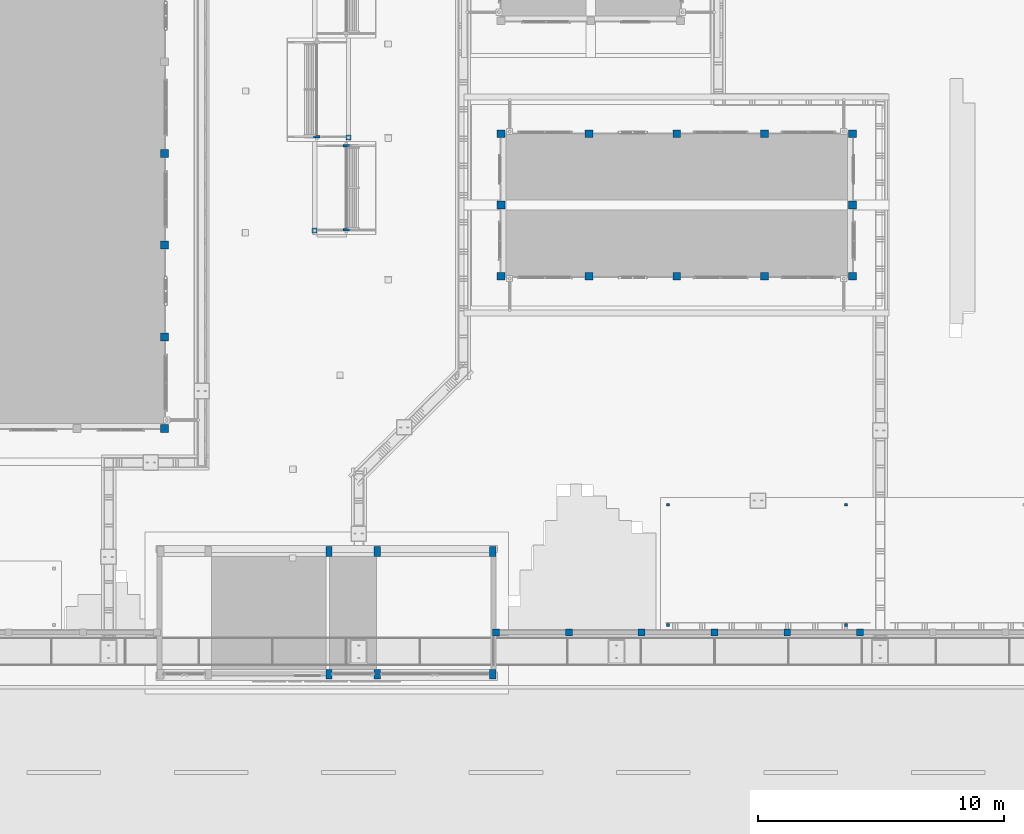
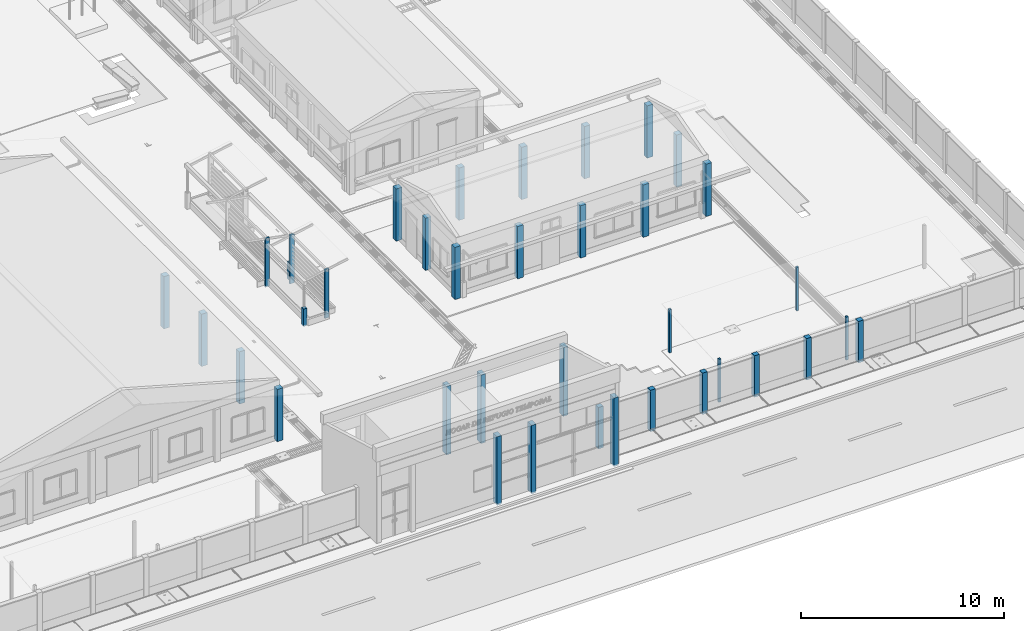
# One storey, part 2 of 151: 42 columns.
"""IFC2X3 building model written with IfcOpenShell, lengths in metres."""

from ifc_helpers import new_model, si_unit, frame, origin, origin_with_axes, place, context, subcontext, project, spatial, faceted_brep, element, save


model = new_model("IFC2X3")

# Units and contexts
model_context = context("Model", 3, precision=1e-05, world=origin_with_axes())
body_context = subcontext(model_context, "Body", "Model", "MODEL_VIEW")
ifc_project = project(units=[si_unit("LENGTHUNIT", "METRE"), si_unit("AREAUNIT", "SQUARE_METRE"), si_unit("VOLUMEUNIT", "CUBIC_METRE"), si_unit("PLANEANGLEUNIT", "RADIAN")], contexts=[model_context])

# Site, building, storey
site_placement = place(None, origin_with_axes())
site = spatial("IfcSite", under=ifc_project, at=site_placement, Name="Predio Los Mangos - Morales, San Martín", CompositionType="ELEMENT")
building_placement = place(site_placement, origin())
building = spatial("IfcBuilding", under=site, at=building_placement, Name="Hogar de Refugio Temporal", CompositionType="ELEMENT")
storey_placement = place(building_placement, origin())
storey = spatial("IfcBuildingStorey", under=building, at=storey_placement, Name="NIVEL 1 (NPT +0.00)", CompositionType="ELEMENT", Elevation=0.0)

# Columns
for number, where, name in (
    (1, (0.0, 0.0, 0.0), "E-01_col"),
    (2, (0.0, 0.0, 0.0), "E-01_col"),
):
    element("IfcColumn", number, at=place(storey_placement, frame(where)), inside=storey, Name=name, ObjectType="Columna", context=body_context, shape_type="Brep", body=[
        faceted_brep([(31.44, 26.14, 0.15), (31.44, 26.46, 0.15), (31.76, 26.46, 0.15), (31.76, 26.14, 0.15), (31.44, 26.14, 3.3), (31.76, 26.14, 3.3), (31.76, 26.46, 3.3), (31.44, 26.46, 3.3)], [[[0, 1, 2, 3]], [[4, 5, 6, 7]], [[0, 3, 5, 4]], [[3, 2, 6, 5]], [[2, 1, 7, 6]], [[1, 0, 4, 7]]]),
    ])
column_1_placement = place(storey_placement, origin())
element("IfcColumn", 3, at=column_1_placement, inside=storey, Name="E-01_col", ObjectType="Columna", context=body_context, shape_type="Brep", body=[
    faceted_brep([(31.44, 29.8733, 0.15), (31.44, 30.1933, 0.15), (31.76, 30.1933, 0.15), (31.76, 29.8733, 0.15), (31.44, 29.8733, 3.3), (31.76, 29.8733, 3.3), (31.76, 30.1933, 3.3), (31.44, 30.1933, 3.3)], [[[0, 1, 2, 3]], [[4, 5, 6, 7]], [[0, 3, 5, 4]], [[3, 2, 6, 5]], [[2, 1, 7, 6]], [[1, 0, 4, 7]]]),
])
column_2_placement = place(storey_placement, origin())
element("IfcColumn", 4, at=column_2_placement, inside=storey, Name="E-01_col", ObjectType="Columna", context=body_context, shape_type="Brep", body=[
    faceted_brep([(31.44, 33.6067, 0.15), (31.44, 33.9267, 0.15), (31.76, 33.9267, 0.15), (31.76, 33.6067, 0.15), (31.44, 33.6067, 3.3), (31.76, 33.6067, 3.3), (31.76, 33.9267, 3.3), (31.44, 33.9267, 3.3)], [[[0, 1, 2, 3]], [[4, 5, 6, 7]], [[0, 3, 5, 4]], [[3, 2, 6, 5]], [[2, 1, 7, 6]], [[1, 0, 4, 7]]]),
])
column_3_placement = place(storey_placement, origin())
element("IfcColumn", 5, at=column_3_placement, inside=storey, Name="E-01_col", ObjectType="Columna", context=body_context, shape_type="Brep", body=[
    faceted_brep([(31.44, 37.34, 0.15), (31.44, 37.66, 0.15), (31.76, 37.66, 0.15), (31.76, 37.34, 0.15), (31.44, 37.34, 3.3), (31.76, 37.34, 3.3), (31.76, 37.66, 3.3), (31.44, 37.66, 3.3)], [[[0, 1, 2, 3]], [[4, 5, 6, 7]], [[0, 3, 5, 4]], [[3, 2, 6, 5]], [[2, 1, 7, 6]], [[1, 0, 4, 7]]]),
])
column_4_placement = place(storey_placement, origin())
element("IfcColumn", 6, at=column_4_placement, inside=storey, Name="E-03_col", ObjectType="Columna", context=body_context, shape_type="Brep", body=[
    faceted_brep([(45.14, 32.34, 0.15), (45.14, 32.66, 0.15), (45.46, 32.66, 0.15), (45.46, 32.34, 0.15), (45.14, 32.34, 3.3), (45.46, 32.34, 3.3), (45.46, 32.66, 3.3), (45.14, 32.66, 3.3)], [[[0, 1, 2, 3]], [[4, 5, 6, 7]], [[0, 3, 5, 4]], [[3, 2, 6, 5]], [[2, 1, 7, 6]], [[1, 0, 4, 7]]]),
])
column_5_placement = place(storey_placement, origin())
element("IfcColumn", 7, at=column_5_placement, inside=storey, Name="E-03_col", ObjectType="Columna", context=body_context, shape_type="Brep", body=[
    faceted_brep([(48.715, 32.34, 0.15), (48.715, 32.66, 0.15), (49.035, 32.66, 0.15), (49.035, 32.34, 0.15), (48.715, 32.34, 3.3), (49.035, 32.34, 3.3), (49.035, 32.66, 3.3), (48.715, 32.66, 3.3)], [[[0, 1, 2, 3]], [[4, 5, 6, 7]], [[0, 3, 5, 4]], [[3, 2, 6, 5]], [[2, 1, 7, 6]], [[1, 0, 4, 7]]]),
])
column_6_placement = place(storey_placement, origin())
element("IfcColumn", 8, at=column_6_placement, inside=storey, Name="E-03_col", ObjectType="Columna", context=body_context, shape_type="Brep", body=[
    faceted_brep([(52.29, 32.34, 0.15), (52.29, 32.66, 0.15), (52.61, 32.66, 0.15), (52.61, 32.34, 0.15), (52.29, 32.34, 3.3), (52.61, 32.34, 3.3), (52.61, 32.66, 3.3), (52.29, 32.66, 3.3)], [[[0, 1, 2, 3]], [[4, 5, 6, 7]], [[0, 3, 5, 4]], [[3, 2, 6, 5]], [[2, 1, 7, 6]], [[1, 0, 4, 7]]]),
])
column_7_placement = place(storey_placement, origin())
element("IfcColumn", 9, at=column_7_placement, inside=storey, Name="E-03_col", ObjectType="Columna", context=body_context, shape_type="Brep", body=[
    faceted_brep([(55.865, 32.34, 0.15), (55.865, 32.66, 0.15), (56.185, 32.66, 0.15), (56.185, 32.34, 0.15), (55.865, 32.34, 3.3), (56.185, 32.34, 3.3), (56.185, 32.66, 3.3), (55.865, 32.66, 3.3)], [[[0, 1, 2, 3]], [[4, 5, 6, 7]], [[0, 3, 5, 4]], [[3, 2, 6, 5]], [[2, 1, 7, 6]], [[1, 0, 4, 7]]]),
])
column_8_placement = place(storey_placement, origin())
element("IfcColumn", 10, at=column_8_placement, inside=storey, Name="E-03_col", ObjectType="Columna", context=body_context, shape_type="Brep", body=[
    faceted_brep([(59.44, 32.34, 0.15), (59.44, 32.66, 0.15), (59.76, 32.66, 0.15), (59.76, 32.34, 0.15), (59.44, 32.34, 3.3), (59.76, 32.34, 3.3), (59.76, 32.66, 3.3), (59.44, 32.66, 3.3)], [[[0, 1, 2, 3]], [[4, 5, 6, 7]], [[0, 3, 5, 4]], [[3, 2, 6, 5]], [[2, 1, 7, 6]], [[1, 0, 4, 7]]]),
])
column_9_placement = place(storey_placement, origin())
element("IfcColumn", 11, at=column_9_placement, inside=storey, Name="E-03_col", ObjectType="Columna", context=body_context, shape_type="Brep", body=[
    faceted_brep([(45.14, 38.14, 0.15), (45.14, 38.46, 0.15), (45.46, 38.46, 0.15), (45.46, 38.14, 0.15), (45.14, 38.14, 3.3), (45.46, 38.14, 3.3), (45.46, 38.46, 3.3), (45.14, 38.46, 3.3)], [[[0, 1, 2, 3]], [[4, 5, 6, 7]], [[0, 3, 5, 4]], [[3, 2, 6, 5]], [[2, 1, 7, 6]], [[1, 0, 4, 7]]]),
])
column_10_placement = place(storey_placement, origin())
element("IfcColumn", 12, at=column_10_placement, inside=storey, Name="E-03_col", ObjectType="Columna", context=body_context, shape_type="Brep", body=[
    faceted_brep([(48.715, 38.14, 0.15), (48.715, 38.46, 0.15), (49.035, 38.46, 0.15), (49.035, 38.14, 0.15), (48.715, 38.14, 3.3), (49.035, 38.14, 3.3), (49.035, 38.46, 3.3), (48.715, 38.46, 3.3)], [[[0, 1, 2, 3]], [[4, 5, 6, 7]], [[0, 3, 5, 4]], [[3, 2, 6, 5]], [[2, 1, 7, 6]], [[1, 0, 4, 7]]]),
])
column_11_placement = place(storey_placement, origin())
element("IfcColumn", 13, at=column_11_placement, inside=storey, Name="E-03_col", ObjectType="Columna", context=body_context, shape_type="Brep", body=[
    faceted_brep([(52.29, 38.14, 0.15), (52.29, 38.46, 0.15), (52.61, 38.46, 0.15), (52.61, 38.14, 0.15), (52.29, 38.14, 3.3), (52.61, 38.14, 3.3), (52.61, 38.46, 3.3), (52.29, 38.46, 3.3)], [[[0, 1, 2, 3]], [[4, 5, 6, 7]], [[0, 3, 5, 4]], [[3, 2, 6, 5]], [[2, 1, 7, 6]], [[1, 0, 4, 7]]]),
])
column_12_placement = place(storey_placement, origin())
element("IfcColumn", 14, at=column_12_placement, inside=storey, Name="E-03_col", ObjectType="Columna", context=body_context, shape_type="Brep", body=[
    faceted_brep([(55.865, 38.14, 0.15), (55.865, 38.46, 0.15), (56.185, 38.46, 0.15), (56.185, 38.14, 0.15), (55.865, 38.14, 3.3), (56.185, 38.14, 3.3), (56.185, 38.46, 3.3), (55.865, 38.46, 3.3)], [[[0, 1, 2, 3]], [[4, 5, 6, 7]], [[0, 3, 5, 4]], [[3, 2, 6, 5]], [[2, 1, 7, 6]], [[1, 0, 4, 7]]]),
])
column_13_placement = place(storey_placement, origin())
element("IfcColumn", 15, at=column_13_placement, inside=storey, Name="E-03_col", ObjectType="Columna", context=body_context, shape_type="Brep", body=[
    faceted_brep([(59.44, 38.14, 0.15), (59.44, 38.46, 0.15), (59.76, 38.46, 0.15), (59.76, 38.14, 0.15), (59.44, 38.14, 3.3), (59.76, 38.14, 3.3), (59.76, 38.46, 3.3), (59.44, 38.46, 3.3)], [[[0, 1, 2, 3]], [[4, 5, 6, 7]], [[0, 3, 5, 4]], [[3, 2, 6, 5]], [[2, 1, 7, 6]], [[1, 0, 4, 7]]]),
])
column_14_placement = place(storey_placement, origin())
element("IfcColumn", 16, at=column_14_placement, inside=storey, Name="E-03_col", ObjectType="Columna", context=body_context, shape_type="Brep", body=[
    faceted_brep([(45.14, 32.34, 0.15), (45.14, 32.66, 0.15), (45.46, 32.66, 0.15), (45.46, 32.34, 0.15), (45.14, 32.34, 3.3), (45.46, 32.34, 3.3), (45.46, 32.66, 3.3), (45.14, 32.66, 3.3)], [[[0, 1, 2, 3]], [[4, 5, 6, 7]], [[0, 3, 5, 4]], [[3, 2, 6, 5]], [[2, 1, 7, 6]], [[1, 0, 4, 7]]]),
])
column_15_placement = place(storey_placement, origin())
element("IfcColumn", 17, at=column_15_placement, inside=storey, Name="E-03_col", ObjectType="Columna", context=body_context, shape_type="Brep", body=[
    faceted_brep([(45.14, 35.24, 0.15), (45.14, 35.56, 0.15), (45.46, 35.56, 0.15), (45.46, 35.24, 0.15), (45.14, 35.24, 3.3), (45.46, 35.24, 3.3), (45.46, 35.56, 3.3), (45.14, 35.56, 3.3)], [[[0, 1, 2, 3]], [[4, 5, 6, 7]], [[0, 3, 5, 4]], [[3, 2, 6, 5]], [[2, 1, 7, 6]], [[1, 0, 4, 7]]]),
])
column_16_placement = place(storey_placement, origin())
element("IfcColumn", 18, at=column_16_placement, inside=storey, Name="E-03_col", ObjectType="Columna", context=body_context, shape_type="Brep", body=[
    faceted_brep([(45.14, 38.14, 0.15), (45.14, 38.46, 0.15), (45.46, 38.46, 0.15), (45.46, 38.14, 0.15), (45.14, 38.14, 3.3), (45.46, 38.14, 3.3), (45.46, 38.46, 3.3), (45.14, 38.46, 3.3)], [[[0, 1, 2, 3]], [[4, 5, 6, 7]], [[0, 3, 5, 4]], [[3, 2, 6, 5]], [[2, 1, 7, 6]], [[1, 0, 4, 7]]]),
])
column_17_placement = place(storey_placement, origin())
element("IfcColumn", 19, at=column_17_placement, inside=storey, Name="E-03_col", ObjectType="Columna", context=body_context, shape_type="Brep", body=[
    faceted_brep([(59.44, 32.34, 0.15), (59.44, 32.66, 0.15), (59.76, 32.66, 0.15), (59.76, 32.34, 0.15), (59.44, 32.34, 3.3), (59.76, 32.34, 3.3), (59.76, 32.66, 3.3), (59.44, 32.66, 3.3)], [[[0, 1, 2, 3]], [[4, 5, 6, 7]], [[0, 3, 5, 4]], [[3, 2, 6, 5]], [[2, 1, 7, 6]], [[1, 0, 4, 7]]]),
])
column_18_placement = place(storey_placement, origin())
element("IfcColumn", 20, at=column_18_placement, inside=storey, Name="E-03_col", ObjectType="Columna", context=body_context, shape_type="Brep", body=[
    faceted_brep([(59.44, 35.24, 0.15), (59.44, 35.56, 0.15), (59.76, 35.56, 0.15), (59.76, 35.24, 0.15), (59.44, 35.24, 3.3), (59.76, 35.24, 3.3), (59.76, 35.56, 3.3), (59.44, 35.56, 3.3)], [[[0, 1, 2, 3]], [[4, 5, 6, 7]], [[0, 3, 5, 4]], [[3, 2, 6, 5]], [[2, 1, 7, 6]], [[1, 0, 4, 7]]]),
])
column_19_placement = place(storey_placement, origin())
element("IfcColumn", 21, at=column_19_placement, inside=storey, Name="E-03_col", ObjectType="Columna", context=body_context, shape_type="Brep", body=[
    faceted_brep([(59.44, 38.14, 0.15), (59.44, 38.46, 0.15), (59.76, 38.46, 0.15), (59.76, 38.14, 0.15), (59.44, 38.14, 3.3), (59.76, 38.14, 3.3), (59.76, 38.46, 3.3), (59.44, 38.46, 3.3)], [[[0, 1, 2, 3]], [[4, 5, 6, 7]], [[0, 3, 5, 4]], [[3, 2, 6, 5]], [[2, 1, 7, 6]], [[1, 0, 4, 7]]]),
])
column_20_placement = place(storey_placement, origin())
element("IfcColumn", 22, at=column_20_placement, inside=storey, Name="oe01_col", ObjectType="Columna", context=body_context, shape_type="Brep", body=[
    faceted_brep([(38.1653, 16.1, 0.05), (38.1653, 16.5, 0.05), (38.4253, 16.5, 0.05), (38.4253, 16.1, 0.05), (38.1653, 16.1, 4.18), (38.4253, 16.1, 4.18), (38.4253, 16.5, 4.18), (38.1653, 16.5, 4.18)], [[[0, 1, 2, 3]], [[4, 5, 6, 7]], [[0, 3, 5, 4]], [[3, 2, 6, 5]], [[2, 1, 7, 6]], [[1, 0, 4, 7]]]),
])
column_21_placement = place(storey_placement, origin())
element("IfcColumn", 23, at=column_21_placement, inside=storey, Name="oe01_col_post", ObjectType="Columna", context=body_context, shape_type="Brep", body=[
    faceted_brep([(38.1653, 21.1, 0.05), (38.1653, 21.5, 0.05), (38.4253, 21.5, 0.05), (38.4253, 21.1, 0.05), (38.1653, 21.1, 4.18), (38.4253, 21.1, 4.18), (38.4253, 21.5, 4.18), (38.1653, 21.5, 4.18)], [[[0, 1, 2, 3]], [[4, 5, 6, 7]], [[0, 3, 5, 4]], [[3, 2, 6, 5]], [[2, 1, 7, 6]], [[1, 0, 4, 7]]]),
])
column_22_placement = place(storey_placement, origin())
element("IfcColumn", 24, at=column_22_placement, inside=storey, Name="oe01_col", ObjectType="Columna", context=body_context, shape_type="Brep", body=[
    faceted_brep([(40.1325, 16.1, 0.05), (40.1325, 16.5, 0.05), (40.3925, 16.5, 0.05), (40.3925, 16.1, 0.05), (40.1325, 16.1, 4.18), (40.3925, 16.1, 4.18), (40.3925, 16.5, 4.18), (40.1325, 16.5, 4.18)], [[[0, 1, 2, 3]], [[4, 5, 6, 7]], [[0, 3, 5, 4]], [[3, 2, 6, 5]], [[2, 1, 7, 6]], [[1, 0, 4, 7]]]),
])
column_23_placement = place(storey_placement, origin())
element("IfcColumn", 25, at=column_23_placement, inside=storey, Name="oe01_col_post", ObjectType="Columna", context=body_context, shape_type="Brep", body=[
    faceted_brep([(40.1325, 21.1, 0.05), (40.1325, 21.5, 0.05), (40.3925, 21.5, 0.05), (40.3925, 21.1, 0.05), (40.1325, 21.1, 4.18), (40.3925, 21.1, 4.18), (40.3925, 21.5, 4.18), (40.1325, 21.5, 4.18)], [[[0, 1, 2, 3]], [[4, 5, 6, 7]], [[0, 3, 5, 4]], [[3, 2, 6, 5]], [[2, 1, 7, 6]], [[1, 0, 4, 7]]]),
])
column_24_placement = place(storey_placement, origin())
element("IfcColumn", 26, at=column_24_placement, inside=storey, Name="oe01_col", ObjectType="Columna", context=body_context, shape_type="Brep", body=[
    faceted_brep([(44.8295, 16.1, 0.05), (44.8295, 16.5, 0.05), (45.0895, 16.5, 0.05), (45.0895, 16.1, 0.05), (44.8295, 16.1, 4.18), (45.0895, 16.1, 4.18), (45.0895, 16.5, 4.18), (44.8295, 16.5, 4.18)], [[[0, 1, 2, 3]], [[4, 5, 6, 7]], [[0, 3, 5, 4]], [[3, 2, 6, 5]], [[2, 1, 7, 6]], [[1, 0, 4, 7]]]),
])
column_25_placement = place(storey_placement, origin())
element("IfcColumn", 27, at=column_25_placement, inside=storey, Name="oe01_col_post", ObjectType="Columna", context=body_context, shape_type="Brep", body=[
    faceted_brep([(44.8295, 21.1, 0.05), (44.8295, 21.5, 0.05), (45.0895, 21.5, 0.05), (45.0895, 21.1, 0.05), (44.8295, 21.1, 4.18), (45.0895, 21.1, 4.18), (45.0895, 21.5, 4.18), (44.8295, 21.5, 4.18)], [[[0, 1, 2, 3]], [[4, 5, 6, 7]], [[0, 3, 5, 4]], [[3, 2, 6, 5]], [[2, 1, 7, 6]], [[1, 0, 4, 7]]]),
])
column_26_placement = place(storey_placement, origin())
element("IfcColumn", 28, at=column_26_placement, inside=storey, Name="poste_autos", ObjectType="Columna", context=body_context, shape_type="Brep", body=[
    faceted_brep([(52.04, 18.24, 0.1), (52.04, 18.36, 0.1), (52.16, 18.36, 0.1), (52.16, 18.24, 0.1), (52.04, 18.24, 2.7), (52.16, 18.24, 2.7), (52.16, 18.36, 2.7), (52.04, 18.36, 2.7)], [[[0, 1, 2, 3]], [[4, 5, 6, 7]], [[0, 3, 5, 4]], [[3, 2, 6, 5]], [[2, 1, 7, 6]], [[1, 0, 4, 7]]]),
])
column_27_placement = place(storey_placement, origin())
element("IfcColumn", 29, at=column_27_placement, inside=storey, Name="poste_autos", ObjectType="Columna", context=body_context, shape_type="Brep", body=[
    faceted_brep([(52.04, 23.14, 0.1), (52.04, 23.26, 0.1), (52.16, 23.26, 0.1), (52.16, 23.14, 0.1), (52.04, 23.14, 2.7), (52.16, 23.14, 2.7), (52.16, 23.26, 2.7), (52.04, 23.26, 2.7)], [[[0, 1, 2, 3]], [[4, 5, 6, 7]], [[0, 3, 5, 4]], [[3, 2, 6, 5]], [[2, 1, 7, 6]], [[1, 0, 4, 7]]]),
])
column_28_placement = place(storey_placement, origin())
element("IfcColumn", 30, at=column_28_placement, inside=storey, Name="poste_autos", ObjectType="Columna", context=body_context, shape_type="Brep", body=[
    faceted_brep([(59.29, 18.24, 0.1), (59.29, 18.36, 0.1), (59.41, 18.36, 0.1), (59.41, 18.24, 0.1), (59.29, 18.24, 2.7), (59.41, 18.24, 2.7), (59.41, 18.36, 2.7), (59.29, 18.36, 2.7)], [[[0, 1, 2, 3]], [[4, 5, 6, 7]], [[0, 3, 5, 4]], [[3, 2, 6, 5]], [[2, 1, 7, 6]], [[1, 0, 4, 7]]]),
])
column_29_placement = place(storey_placement, origin())
element("IfcColumn", 31, at=column_29_placement, inside=storey, Name="poste_autos", ObjectType="Columna", context=body_context, shape_type="Brep", body=[
    faceted_brep([(59.29, 23.14, 0.1), (59.29, 23.26, 0.1), (59.41, 23.26, 0.1), (59.41, 23.14, 0.1), (59.29, 23.14, 2.7), (59.41, 23.14, 2.7), (59.41, 23.26, 2.7), (59.29, 23.26, 2.7)], [[[0, 1, 2, 3]], [[4, 5, 6, 7]], [[0, 3, 5, 4]], [[3, 2, 6, 5]], [[2, 1, 7, 6]], [[1, 0, 4, 7]]]),
])
column_30_placement = place(storey_placement, origin())
element("IfcColumn", 32, at=column_30_placement, inside=storey, Name="columna_cerco", ObjectType="Columna", context=body_context, shape_type="Brep", body=[
    faceted_brep([(44.96, 17.86, 0.0), (44.96, 18.14, 0.0), (45.24, 18.14, 0.0), (45.24, 17.86, 0.0), (44.96, 17.86, 2.5), (45.24, 17.86, 2.5), (45.24, 18.14, 2.5), (44.96, 18.14, 2.5)], [[[0, 1, 2, 3]], [[4, 5, 6, 7]], [[0, 3, 5, 4]], [[3, 2, 6, 5]], [[2, 1, 7, 6]], [[1, 0, 4, 7]]]),
])
column_31_placement = place(storey_placement, origin())
element("IfcColumn", 33, at=column_31_placement, inside=storey, Name="columna_cerco", ObjectType="Columna", context=body_context, shape_type="Brep", body=[
    faceted_brep([(47.9222, 17.86, 0.0), (47.9222, 18.14, 0.0), (48.2022, 18.14, 0.0), (48.2022, 17.86, 0.0), (47.9222, 17.86, 2.5), (48.2022, 17.86, 2.5), (48.2022, 18.14, 2.5), (47.9222, 18.14, 2.5)], [[[0, 1, 2, 3]], [[4, 5, 6, 7]], [[0, 3, 5, 4]], [[3, 2, 6, 5]], [[2, 1, 7, 6]], [[1, 0, 4, 7]]]),
])
column_32_placement = place(storey_placement, origin())
element("IfcColumn", 34, at=column_32_placement, inside=storey, Name="columna_cerco", ObjectType="Columna", context=body_context, shape_type="Brep", body=[
    faceted_brep([(50.8844, 17.86, 0.0), (50.8844, 18.14, 0.0), (51.1644, 18.14, 0.0), (51.1644, 17.86, 0.0), (50.8844, 17.86, 2.5), (51.1644, 17.86, 2.5), (51.1644, 18.14, 2.5), (50.8844, 18.14, 2.5)], [[[0, 1, 2, 3]], [[4, 5, 6, 7]], [[0, 3, 5, 4]], [[3, 2, 6, 5]], [[2, 1, 7, 6]], [[1, 0, 4, 7]]]),
])
column_33_placement = place(storey_placement, origin())
element("IfcColumn", 35, at=column_33_placement, inside=storey, Name="columna_cerco", ObjectType="Columna", context=body_context, shape_type="Brep", body=[
    faceted_brep([(53.8467, 17.86, 0.0), (53.8467, 18.14, 0.0), (54.1267, 18.14, 0.0), (54.1267, 17.86, 0.0), (53.8467, 17.86, 2.5), (54.1267, 17.86, 2.5), (54.1267, 18.14, 2.5), (53.8467, 18.14, 2.5)], [[[0, 1, 2, 3]], [[4, 5, 6, 7]], [[0, 3, 5, 4]], [[3, 2, 6, 5]], [[2, 1, 7, 6]], [[1, 0, 4, 7]]]),
])
column_34_placement = place(storey_placement, origin())
element("IfcColumn", 36, at=column_34_placement, inside=storey, Name="columna_cerco", ObjectType="Columna", context=body_context, shape_type="Brep", body=[
    faceted_brep([(56.8089, 17.86, 0.0), (56.8089, 18.14, 0.0), (57.0889, 18.14, 0.0), (57.0889, 17.86, 0.0), (56.8089, 17.86, 2.5), (57.0889, 17.86, 2.5), (57.0889, 18.14, 2.5), (56.8089, 18.14, 2.5)], [[[0, 1, 2, 3]], [[4, 5, 6, 7]], [[0, 3, 5, 4]], [[3, 2, 6, 5]], [[2, 1, 7, 6]], [[1, 0, 4, 7]]]),
])
column_35_placement = place(storey_placement, origin())
element("IfcColumn", 37, at=column_35_placement, inside=storey, Name="columna_cerco", ObjectType="Columna", context=body_context, shape_type="Brep", body=[
    faceted_brep([(59.7711, 17.86, 0.0), (59.7711, 18.14, 0.0), (60.0511, 18.14, 0.0), (60.0511, 17.86, 0.0), (59.7711, 17.86, 2.5), (60.0511, 17.86, 2.5), (60.0511, 18.14, 2.5), (59.7711, 18.14, 2.5)], [[[0, 1, 2, 3]], [[4, 5, 6, 7]], [[0, 3, 5, 4]], [[3, 2, 6, 5]], [[2, 1, 7, 6]], [[1, 0, 4, 7]]]),
])
column_36_placement = place(storey_placement, origin())
element("IfcColumn", 38, at=column_36_placement, inside=storey, Name="oc01_columna", ObjectType="Columna", context=body_context, shape_type="Brep", body=[
    faceted_brep([(39.125, 34.335, 0.0), (38.875, 34.335, 0.0), (38.875, 34.435, 0.0), (39.125, 34.435, 0.0), (39.125, 34.335, 2.93), (39.125, 34.435, 2.93), (38.875, 34.435, 2.93), (38.875, 34.335, 2.93)], [[[0, 1, 2, 3]], [[4, 5, 6, 7]], [[0, 3, 5, 4]], [[3, 2, 6, 5]], [[2, 1, 7, 6]], [[1, 0, 4, 7]]]),
])
column_37_placement = place(storey_placement, origin())
element("IfcColumn", 39, at=column_37_placement, inside=storey, Name="oc01_columna", ObjectType="Columna", context=body_context, shape_type="Brep", body=[
    faceted_brep([(39.125, 37.765, 0.0), (38.875, 37.765, 0.0), (38.875, 37.865, 0.0), (39.125, 37.865, 0.0), (39.125, 37.765, 2.93), (39.125, 37.865, 2.93), (38.875, 37.865, 2.93), (38.875, 37.765, 2.93)], [[[0, 1, 2, 3]], [[4, 5, 6, 7]], [[0, 3, 5, 4]], [[3, 2, 6, 5]], [[2, 1, 7, 6]], [[1, 0, 4, 7]]]),
])
column_38_placement = place(storey_placement, origin())
element("IfcColumn", 40, at=column_38_placement, inside=storey, Name="oc01_falsa_columna", ObjectType="Falsa columna", context=body_context, shape_type="Brep", body=[
    faceted_brep([(37.81, 34.255, 0.0), (37.61, 34.255, 0.0), (37.61, 34.455, 0.0), (37.81, 34.455, 0.0), (37.81, 34.255, 1.05), (37.81, 34.455, 1.05), (37.61, 34.455, 1.05), (37.61, 34.255, 1.05)], [[[0, 1, 2, 3]], [[4, 5, 6, 7]], [[0, 3, 5, 4]], [[3, 2, 6, 5]], [[2, 1, 7, 6]], [[1, 0, 4, 7]]]),
])
column_39_placement = place(storey_placement, origin())
element("IfcColumn", 41, at=column_39_placement, inside=storey, Name="oc01_columna", ObjectType="Columna", context=body_context, shape_type="Brep", body=[
    faceted_brep([(37.925, 38.125, 0.0), (37.675, 38.125, 0.0), (37.675, 38.225, 0.0), (37.925, 38.225, 0.0), (37.925, 38.125, 2.93), (37.925, 38.225, 2.93), (37.675, 38.225, 2.93), (37.675, 38.125, 2.93)], [[[0, 1, 2, 3]], [[4, 5, 6, 7]], [[0, 3, 5, 4]], [[3, 2, 6, 5]], [[2, 1, 7, 6]], [[1, 0, 4, 7]]]),
])
column_40_placement = place(storey_placement, origin())
element("IfcColumn", 42, at=column_40_placement, inside=storey, Name="oc01_falsa_columna", ObjectType="Falsa columna", context=body_context, shape_type="Brep", body=[
    faceted_brep([(39.19, 38.045, 0.0), (38.99, 38.045, 0.0), (38.99, 38.245, 0.0), (39.19, 38.245, 0.0), (39.19, 38.045, 1.05), (39.19, 38.245, 1.05), (38.99, 38.245, 1.05), (38.99, 38.045, 1.05)], [[[0, 1, 2, 3]], [[4, 5, 6, 7]], [[0, 3, 5, 4]], [[3, 2, 6, 5]], [[2, 1, 7, 6]], [[1, 0, 4, 7]]]),
])

save(model, "model.ifc")
